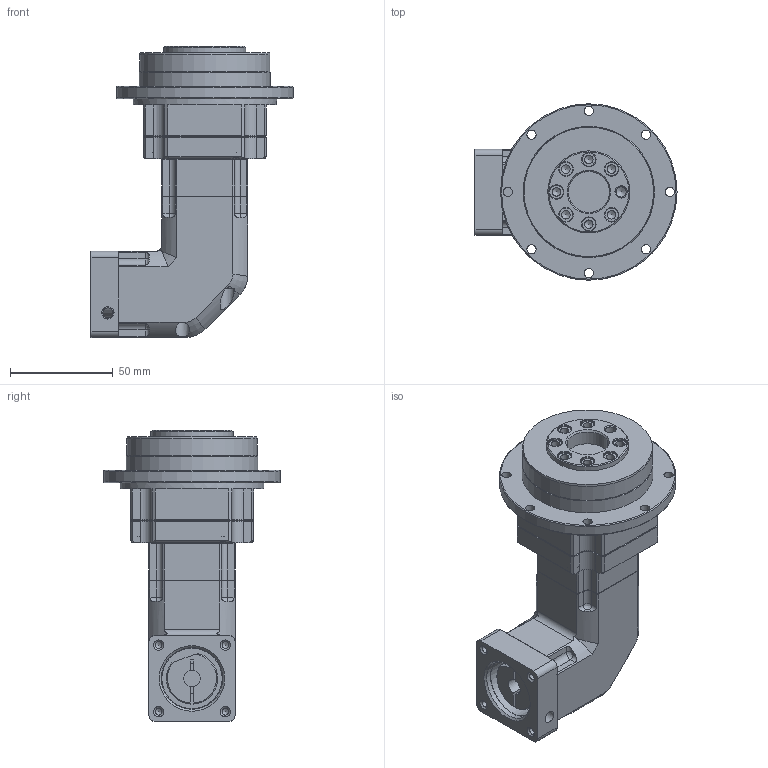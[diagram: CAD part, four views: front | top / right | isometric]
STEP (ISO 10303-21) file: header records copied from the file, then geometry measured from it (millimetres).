
FILE_DESCRIPTION((''),'2;1');
FILE_NAME('C:\Documents and Settings\augold\바탕 화면\SPLF060DS025~50FA.stp','2010-05-28T15:43:07',('augold'),(''),'Autodesk Inventor 2010','Autodesk Inventor 2010','');
FILE_SCHEMA(('AUTOMOTIVE_DESIGN { 1 0 10303 214 1 1 1 1 }'));
Length unit declared in the file: millimetre
Products named in the file (6): SPLF060S025~100FA; SPIF060; DOWN ADAPTER; CARRIER CASE; 42각 GEARCASE; 42각 INPUT ADAPTER FLANGE
Assembly tree (5 placements, depth 2):
  SPLF060S025~100FA
    SPIF060
    DOWN ADAPTER
    CARRIER CASE
    42각 GEARCASE
    42각 INPUT ADAPTER FLANGE
Bounding box: 98.5 x 86 x 141.9 mm (x, y, z)
Volume: 320399 mm3; surface area: 72898.6 mm2
Topology: 5 solids, 5 shells, 455 faces, 1111 edges, 693 vertices
Faces by surface type: plane 195, cylinder 150, cone 96, bspline 12, torus 2
Full cylindrical faces by diameter (mm): 2.459 x4, 3.242 x4, 3.3 x4, 4.134 x7, 4.5 x12, 5 x2, 5.9 x2, 6 x3, 6.5 x7, 8 x5, 15 x1, 20 x1, 22.5 x1, 24 x1, 29.5 x1, 30 x1, 31 x2, 32 x2, 36 x2, 37 x4, 37.6 x1, 38 x1, 40 x1, 63.5 x1, 64 x1, 70 x1, 86 x1
Entity records: 13519 total; most frequent: CARTESIAN_POINT 3179, DIRECTION 2152, ORIENTED_EDGE 1916, EDGE_CURVE 958, AXIS2_PLACEMENT_3D 874, VERTEX_POINT 651, EDGE_LOOP 631, FACE_OUTER_BOUND 455
